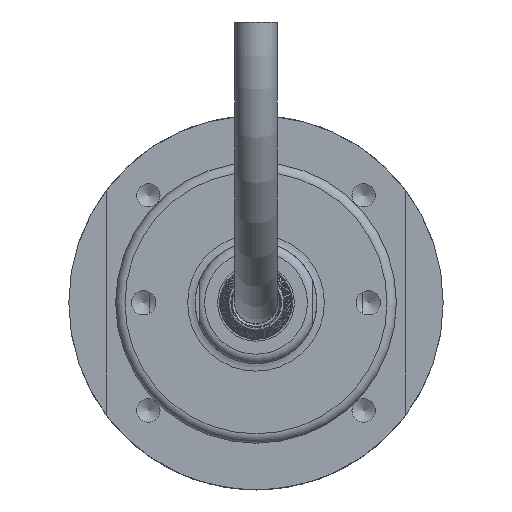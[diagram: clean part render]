
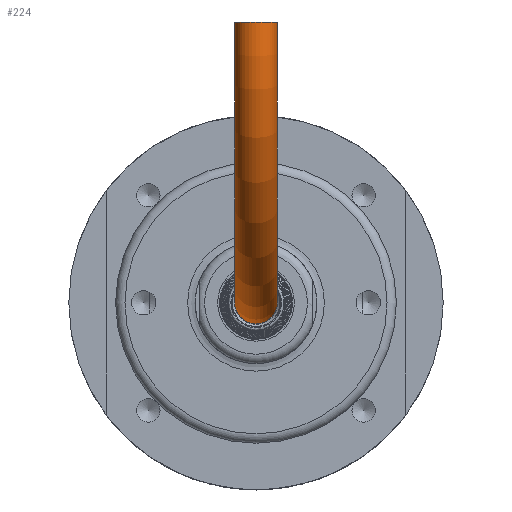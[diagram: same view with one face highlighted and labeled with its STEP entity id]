
A CAD part, front view. The second image highlights one B-rep face of the part: STEP entity #224.
In plain terms, the highlighted toroidal (fillet/blend) face has major radius 30 mm and minor radius 2.25 mm.
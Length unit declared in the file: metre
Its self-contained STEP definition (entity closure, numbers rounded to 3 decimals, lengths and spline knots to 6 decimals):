
#224 = ADVANCED_FACE( '', ( #457, #458 ), #459, .T. );
#457 = FACE_OUTER_BOUND( '', #1254, .T. );
#458 = FACE_OUTER_BOUND( '', #1255, .T. );
#459 = TOROIDAL_SURFACE( '', #1256, 0.03, 0.00225 );
#1254 = EDGE_LOOP( '', ( #11613 ) );
#1255 = EDGE_LOOP( '', ( #11614 ) );
#1256 = AXIS2_PLACEMENT_3D( '', #11615, #11616, #11617 );
#11613 = ORIENTED_EDGE( '', *, *, #12067, .T. );
#11614 = ORIENTED_EDGE( '', *, *, #12068, .F. );
#11615 = CARTESIAN_POINT( '', ( 0., -0.043, 0.03 ) );
#11616 = DIRECTION( '', ( -1., 0., 0. ) );
#11617 = DIRECTION( '', ( 0., 1., 0. ) );
#12067 = EDGE_CURVE( '', #12384, #12384, #12385, .T. );
#12068 = EDGE_CURVE( '', #12386, #12386, #12387, .T. );
#12384 = VERTEX_POINT( '', #13390 );
#12385 = CIRCLE( '', #13391, 0.00225 );
#12386 = VERTEX_POINT( '', #13392 );
#12387 = CIRCLE( '', #13393, 0.00225 );
#13390 = CARTESIAN_POINT( '', ( 0.00225, -0.043, 0. ) );
#13391 = AXIS2_PLACEMENT_3D( '', #17453, #17454, #17455 );
#13392 = CARTESIAN_POINT( '', ( 0., -0.07075, 0.03 ) );
#13393 = AXIS2_PLACEMENT_3D( '', #17456, #17457, #17458 );
#17453 = CARTESIAN_POINT( '', ( 0., -0.043, 0. ) );
#17454 = DIRECTION( '', ( 0., -1., 0. ) );
#17455 = DIRECTION( '', ( 1., 0., 0. ) );
#17456 = CARTESIAN_POINT( '', ( 0., -0.073, 0.03 ) );
#17457 = DIRECTION( '', ( 0., 0., 1. ) );
#17458 = DIRECTION( '', ( 0., 1., 0. ) );
